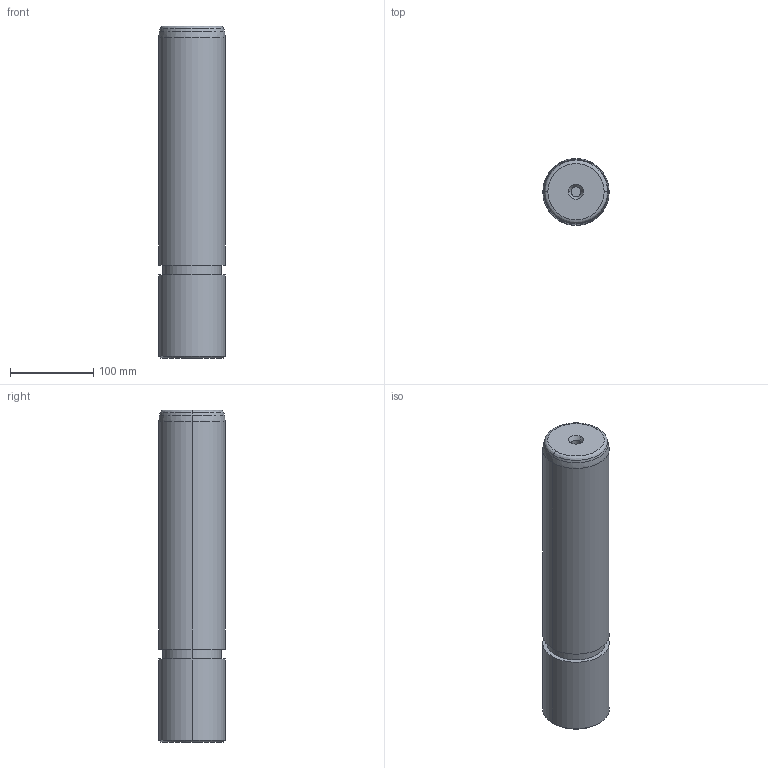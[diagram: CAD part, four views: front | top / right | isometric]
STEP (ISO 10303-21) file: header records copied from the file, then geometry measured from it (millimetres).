
FILE_DESCRIPTION((''),'2;1');
FILE_NAME('','2010-09-08T13:04:41+09:00',('misumi'),(''),'M/STEP i/f 1R2-14','CADmeister v5.1','');
FILE_SCHEMA(('AUTOMOTIVE_DESIGN'));
Length unit declared in the file: millimetre
Products named in the file (1): GPOB80-400
Bounding box: 80 x 80 x 400 mm (x, y, z)
Volume: 1987675.2 mm3; surface area: 112627.2 mm2
Topology: 1 solids, 1 shells, 23 faces, 44 edges, 26 vertices
Faces by surface type: cylinder 8, cone 6, plane 5, revolution 4
Entity records: 690 total; most frequent: DIRECTION 122, CARTESIAN_POINT 104, ORIENTED_EDGE 88, AXIS2_PLACEMENT_3D 52, EDGE_CURVE 44, CIRCLE 32, VERTEX_POINT 26, EDGE_LOOP 26
